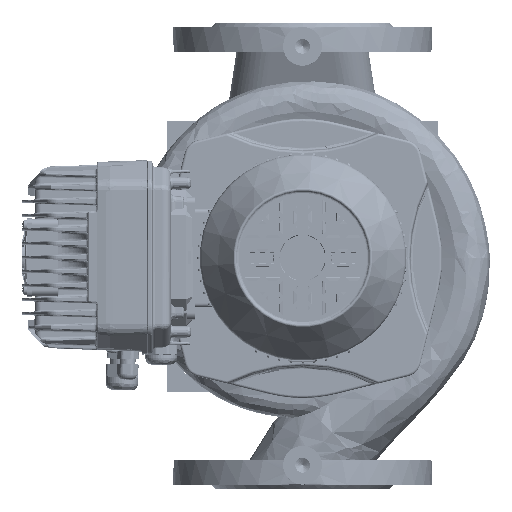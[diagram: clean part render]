
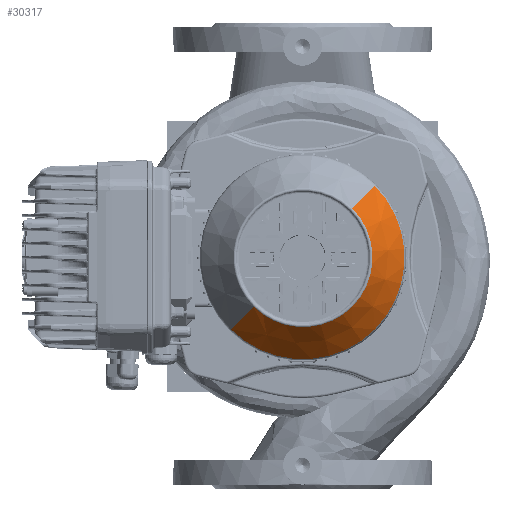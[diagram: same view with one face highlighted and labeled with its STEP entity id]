
A CAD part, top view. The second image highlights one B-rep face of the part: STEP entity #30317.
In plain terms, the highlighted conical face has half-angle 37 degrees and reference radius 53.876 mm.
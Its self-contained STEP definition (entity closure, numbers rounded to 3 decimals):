
#30317=ADVANCED_FACE('NONE',(#101698),#101699,.T.);
#101698=FACE_OUTER_BOUND('',#154850,.T.);
#101699=CONICAL_SURFACE('',#154851,53.876,0.646);
#154850=EDGE_LOOP('',(#187420,#187421,#187422,#187423));
#154851=AXIS2_PLACEMENT_3D('',#187424,#187425,#187426);
#187420=ORIENTED_EDGE('',*,*,#215434,.F.);
#187421=ORIENTED_EDGE('',*,*,#215432,.F.);
#187422=ORIENTED_EDGE('',*,*,#215435,.F.);
#187423=ORIENTED_EDGE('',*,*,#215436,.T.);
#187424=CARTESIAN_POINT('',(0.,87.403,0.));
#187425=DIRECTION('',(0.,-1.0,0.));
#187426=DIRECTION('',(0.,0.,-1.0));
#215432=EDGE_CURVE('NONE',#306632,#306634,#306635,.T.);
#215434=EDGE_CURVE('',#306634,#306637,#306638,.T.);
#215435=EDGE_CURVE('',#306639,#306632,#306640,.T.);
#215436=EDGE_CURVE('NONE',#306639,#306637,#306641,.T.);
#306632=VERTEX_POINT('',#339889);
#306634=VERTEX_POINT('NONE',#339891);
#306635=CIRCLE('',#339892,53.876);
#306637=VERTEX_POINT('NONE',#339894);
#306638=LINE('',#339895,#339896);
#306639=VERTEX_POINT('',#339897);
#306640=LINE('',#339898,#339899);
#306641=CIRCLE('',#339900,78.592);
#339889=CARTESIAN_POINT('',(0.,87.403,53.876));
#339891=CARTESIAN_POINT('',(0.,87.403,-53.876));
#339892=AXIS2_PLACEMENT_3D('',#351388,#351389,#351390);
#339894=CARTESIAN_POINT('',(0.,54.603,-78.592));
#339895=CARTESIAN_POINT('',(0.,87.403,-53.876));
#339896=VECTOR('',#351394,1.0);
#339897=CARTESIAN_POINT('',(0.,54.603,78.592));
#339898=CARTESIAN_POINT('',(0.,87.403,53.876));
#339899=VECTOR('',#351395,1.0);
#339900=AXIS2_PLACEMENT_3D('',#351396,#351397,#351398);
#351388=CARTESIAN_POINT('',(0.,87.403,0.));
#351389=DIRECTION('',(0.,1.0,0.));
#351390=DIRECTION('',(0.,0.,1.0));
#351394=DIRECTION('',(0.,-0.799,-0.602));
#351395=DIRECTION('',(0.,0.799,-0.602));
#351396=CARTESIAN_POINT('',(0.,54.603,0.));
#351397=DIRECTION('',(0.,1.0,0.));
#351398=DIRECTION('',(0.,0.,1.0));
